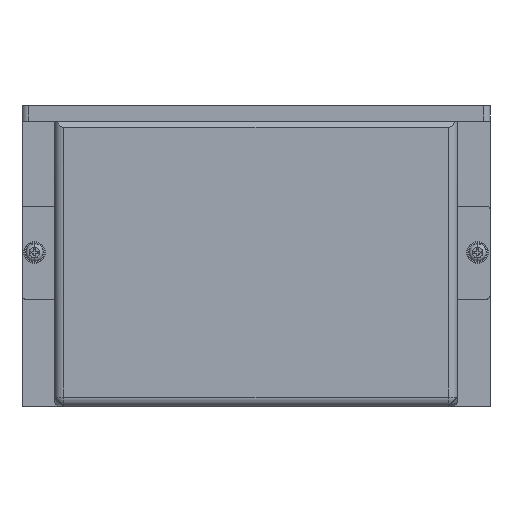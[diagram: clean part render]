
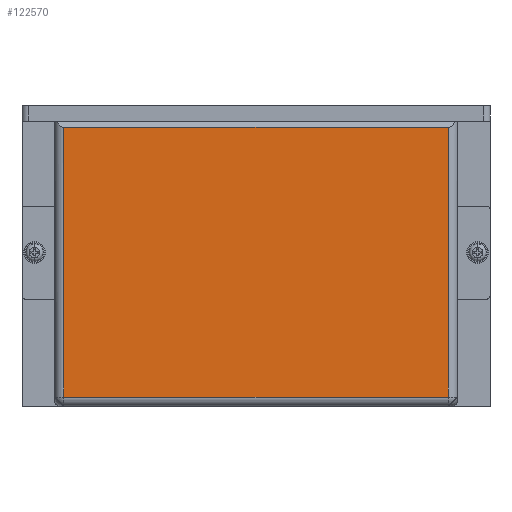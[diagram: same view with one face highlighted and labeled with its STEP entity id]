
A CAD part, front view. The second image highlights one B-rep face of the part: STEP entity #122570.
In plain terms, the highlighted planar face has unit normal (0, -1, 0).
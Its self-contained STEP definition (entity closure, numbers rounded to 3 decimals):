
#119771=CARTESIAN_POINT('',(62.,-16.,44.));
#119782=DIRECTION('',(0.,0.,1.));
#119783=VECTOR('',#119782,87.);
#119784=CARTESIAN_POINT('',(62.,-16.,-43.));
#119785=LINE('',#119784,#119783);
#119786=DIRECTION('',(-1.,0.,0.));
#119787=VECTOR('',#119786,124.);
#119788=CARTESIAN_POINT('',(62.,-16.,44.));
#119789=LINE('',#119788,#119787);
#119790=DIRECTION('',(1.,0.,0.));
#119791=VECTOR('',#119790,124.);
#119792=CARTESIAN_POINT('',(-62.,-16.,-43.));
#119793=LINE('',#119792,#119791);
#120030=DIRECTION('',(0.,0.,-1.));
#120031=VECTOR('',#120030,87.);
#120032=CARTESIAN_POINT('',(-62.,-16.,44.));
#120033=LINE('',#120032,#120031);
#122308=VERTEX_POINT('',#119771);
#122309=CARTESIAN_POINT('',(62.,-16.,-43.));
#122310=VERTEX_POINT('',#122309);
#122311=CARTESIAN_POINT('',(-62.,-16.,44.));
#122312=VERTEX_POINT('',#122311);
#122313=CARTESIAN_POINT('',(-62.,-16.,-43.));
#122314=VERTEX_POINT('',#122313);
#122557=CARTESIAN_POINT('',(0.,-16.,0.));
#122558=DIRECTION('',(0.,1.,0.));
#122559=DIRECTION('',(1.,0.,0.));
#122560=AXIS2_PLACEMENT_3D('',#122557,#122558,#122559);
#122561=PLANE('',#122560);
#122562=ORIENTED_EDGE('',*,*,#122548,.F.);
#122563=ORIENTED_EDGE('',*,*,#122537,.F.);
#122565=ORIENTED_EDGE('',*,*,#122564,.F.);
#122567=ORIENTED_EDGE('',*,*,#122566,.F.);
#122568=EDGE_LOOP('',(#122562,#122563,#122565,#122567));
#122569=FACE_OUTER_BOUND('',#122568,.F.);
#122570=ADVANCED_FACE('',(#122569),#122561,.F.);
#122537=EDGE_CURVE('',#122310,#122308,#119785,.T.);
#122548=EDGE_CURVE('',#122308,#122312,#119789,.T.);
#122564=EDGE_CURVE('',#122314,#122310,#119793,.T.);
#122566=EDGE_CURVE('',#122312,#122314,#120033,.T.);
